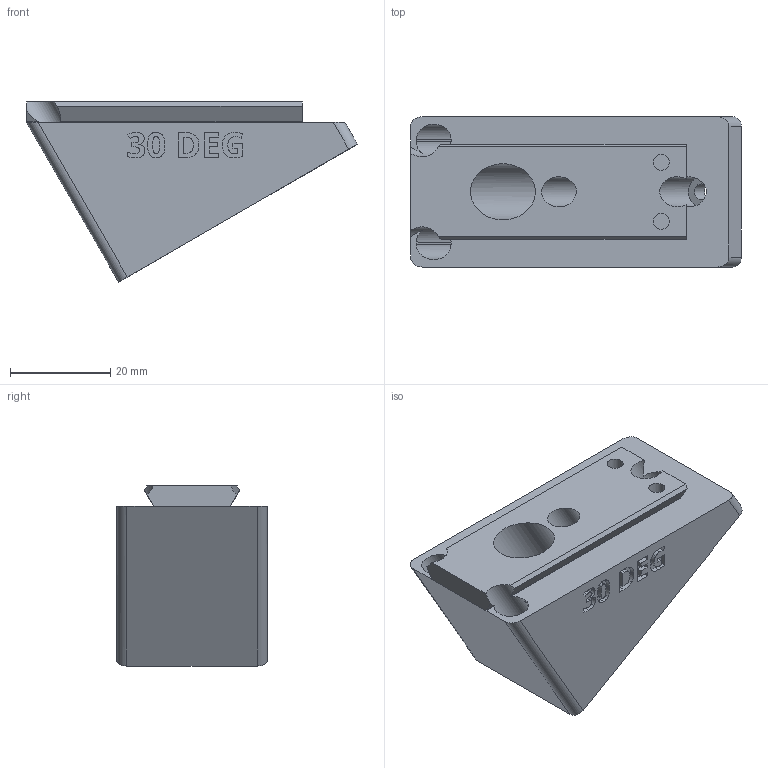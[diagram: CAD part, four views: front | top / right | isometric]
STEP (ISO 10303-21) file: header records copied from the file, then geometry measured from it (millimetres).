
FILE_DESCRIPTION(/* description */ ('STEP AP242 Edition 2','CAx-IF Rec.Pracs.---Representation and Presentation of Product Manufacturing Information (PMI)---4.0---2014-10-13','CAx-IF Rec.Pracs.---3D Tessellated Geometry---0.4---2014-09-14','2;1','CAx-IF Rec.Pracs.---User Defined Attributes---1.5---2016-08-15'),/* implementation_level */ '2;1');
FILE_NAME(/* name */ 'Camera Wedges - CAMERA MOUNTING WEDGE, POS, 30 DEG',/* time_stamp */ '2026-07-08T20:39:27Z',/* author */ (''),/* organization */ (''),/* preprocessor_version */ 'ST-DEVELOPER v20',/* originating_system */ 'ONSHAPE BY PTC INC, 1.217',/* authorisation */ ' ');
FILE_SCHEMA (('AP242_MANAGED_MODEL_BASED_3D_ENGINEERING_MIM_LF { 1 0 10303 442 3 1 4 }'));
Length unit declared in the file: metre
Products named in the file (1): CAMERA MOUNTING WEDGE, POS, 30 DEG
Bounding box: 66.01 x 30 x 35.93 mm (x, y, z)
Volume: 31616.3 mm3; surface area: 10989.5 mm2
Topology: 1 solids, 1 shells, 262 faces, 723 edges, 482 vertices
Faces by surface type: plane 124, bspline 96, cylinder 42
Full cylindrical faces by diameter (mm): 3.2 x4, 6 x2, 6.4 x1, 11.2 x1
Entity records: 8625 total; most frequent: CARTESIAN_POINT 2510, ORIENTED_EDGE 1424, DIRECTION 953, EDGE_CURVE 712, VERTEX_POINT 479, LINE 421, VECTOR 421, EDGE_LOOP 299
